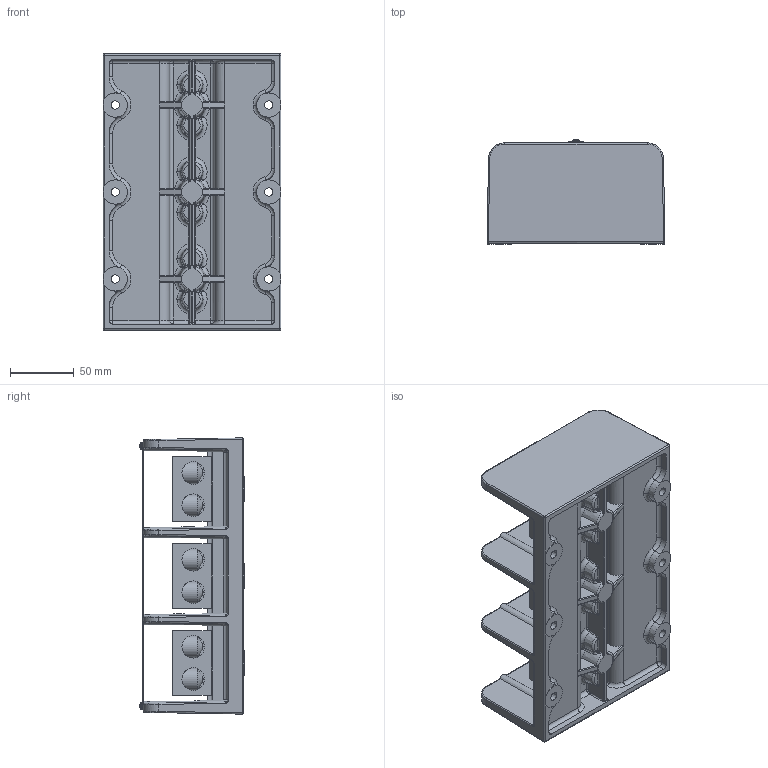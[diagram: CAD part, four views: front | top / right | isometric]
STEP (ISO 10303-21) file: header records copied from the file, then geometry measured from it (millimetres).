
FILE_DESCRIPTION (( 'STEP AP214' ), '1' );
FILE_NAME ('1492-PD3226.STEP', '2014-11-24T21:35:33', ( 'admin' ), ( 'REGAL' ), 'SwSTEP 2.0', 'SolidWorks 2011', '' );
FILE_SCHEMA (( 'AUTOMOTIVE_DESIGN' ));
Length unit declared in the file: inch
Products named in the file (7): 9818006; 97402xx_9740212; 9799231; 98125XX_9812546; 9691410; 9812203; 1492-PD3226
Assembly tree (25 placements, depth 2):
  1492-PD3226
    9691410  x3
    9799231  x12
    9818006  x2
    98125XX_9812546  x6
    97402xx_9740212
    9812203
Bounding box: 139.66 x 81.97 x 216.88 mm (x, y, z)
Volume: 706085 mm3; surface area: 256682.2 mm2
Topology: 25 solids, 25 shells, 1826 faces, 4598 edges, 2788 vertices
Faces by surface type: plane 620, cylinder 581, bspline 234, cone 232, torus 109, sphere 50
Entity records: 54290 total; most frequent: CARTESIAN_POINT 29569, ORIENTED_EDGE 5468, DIRECTION 4717, EDGE_CURVE 2734, AXIS2_PLACEMENT_3D 1864, VERTEX_POINT 1657, EDGE_LOOP 1175, FACE_OUTER_BOUND 1114
